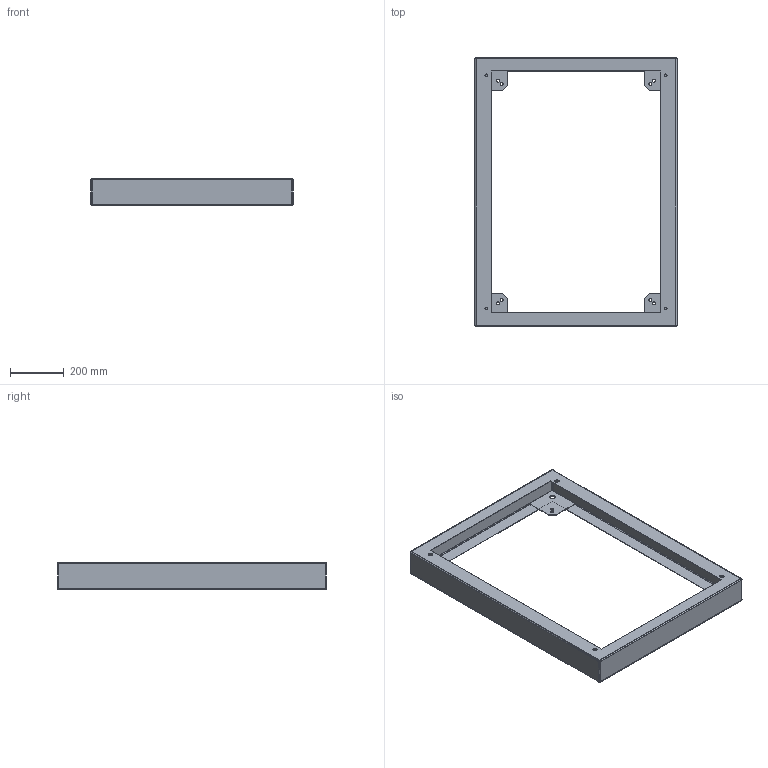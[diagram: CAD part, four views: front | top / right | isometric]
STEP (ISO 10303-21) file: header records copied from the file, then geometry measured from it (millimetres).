
FILE_DESCRIPTION(('STEP AP203'), '1');
FILE_NAME('3710 Öîêîëü ñâàðíîé', '', ('UNSPECIFIED'), ('UNSPECIFIED'), 'C3D Converter', 'C3D Toolkit', '');
FILE_SCHEMA(('CONFIG_CONTROL_DESIGN'));
Length unit declared in the file: millimetre
Products named in the file (2): 3710.100.80
Assembly tree (4 placements, depth 2):
  3710.100.80
    (unnamed)  x4
Bounding box: 750 x 998 x 100 mm (x, y, z)
Volume: 1455156.8 mm3; surface area: 1397687.1 mm2
Topology: 5 solids, 5 shells, 167 faces, 420 edges, 260 vertices
Faces by surface type: plane 79, cylinder 56, cone 16, sphere 16
Full cylindrical faces by diameter (mm): 8.376 x4, 11 x12, 16 x4, 20 x4
Entity records: 4628 total; most frequent: CARTESIAN_POINT 1434, DIRECTION 660, ORIENTED_EDGE 552, EDGE_CURVE 276, AXIS2_PLACEMENT_3D 259, EDGE_LOOP 194, VERTEX_POINT 182, FACE_BOUND 146
